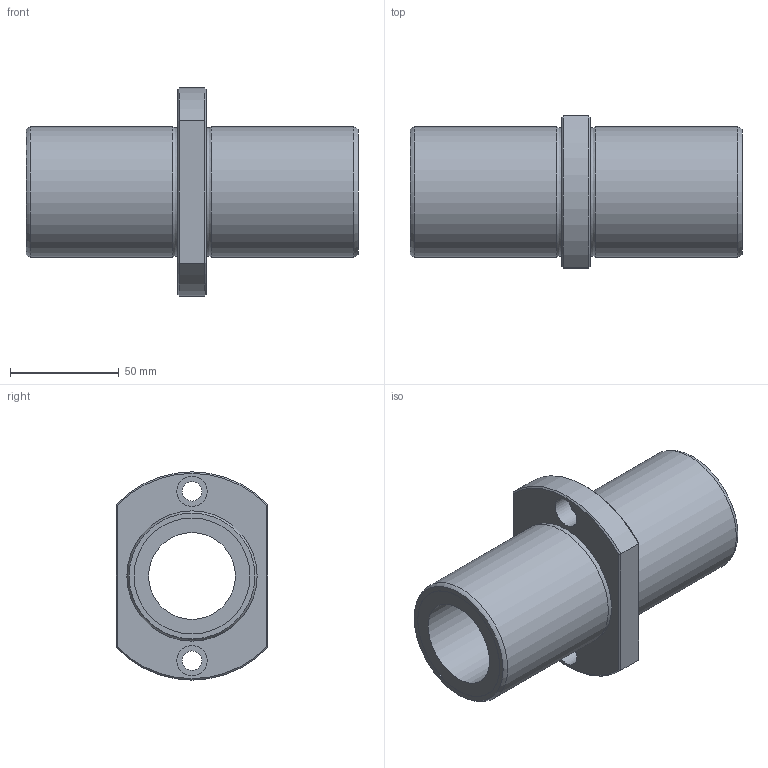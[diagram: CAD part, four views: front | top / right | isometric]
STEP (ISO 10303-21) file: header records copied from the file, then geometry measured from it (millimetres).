
FILE_DESCRIPTION((''),'2;1');
FILE_NAME('D:\製品 (図面)\カタログ用3D\リニアベアリング関連\STEP形式\LFDTC\LFDTC40.stp','2010-06-04T08:43:20',('Tsuchiya'),(''),'Autodesk Inventor 10','Autodesk Inventor 10','');
FILE_SCHEMA(('AUTOMOTIVE_DESIGN { 1 0 10303 214 1 1 1 1 }'));
Length unit declared in the file: millimetre
Products named in the file (1): LFDTC40
Bounding box: 153 x 70 x 96 mm (x, y, z)
Volume: 278204.3 mm3; surface area: 59377.7 mm2
Topology: 1 solids, 1 shells, 33 faces, 63 edges, 38 vertices
Faces by surface type: plane 14, cylinder 11, cone 4, torus 2, bspline 2
Full cylindrical faces by diameter (mm): 9 x2, 14 x2, 40 x1, 53.4 x2, 60 x2
Entity records: 925 total; most frequent: CARTESIAN_POINT 270, DIRECTION 136, ORIENTED_EDGE 100, AXIS2_PLACEMENT_3D 62, EDGE_LOOP 58, EDGE_CURVE 50, VERTEX_POINT 38, FACE_OUTER_BOUND 33
